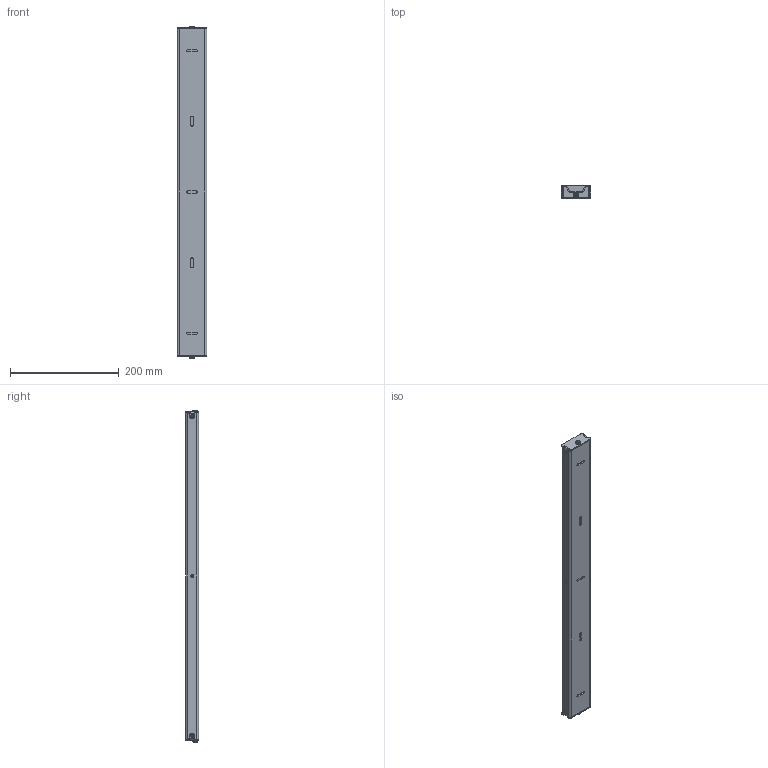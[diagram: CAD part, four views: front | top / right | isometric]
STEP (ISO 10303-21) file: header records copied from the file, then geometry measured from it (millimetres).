
FILE_DESCRIPTION (( 'STEP AP214' ), '1' );
FILE_NAME ('LAMP.SANILINEAR-01.STEP', '2020-06-27T10:04:23', ( '' ), ( '' ), 'SwSTEP 2.0', 'SolidWorks 2020', '' );
FILE_SCHEMA (( 'AUTOMOTIVE_DESIGN' ));
Length unit declared in the file: millimetre
Products named in the file (8): Connettore Jack; LAMP.SANILINEAR-01; Vite croce testa svasata M3x12_PreviewCfg; ZZ.SCAPADDS1104; DDS1104; MEC437.01.00 Anima; MEC437.02.00 Supporto; MEC437.03.00 Tappo
Assembly tree (14 placements, depth 2):
  LAMP.SANILINEAR-01
    MEC437.02.00 Supporto
    MEC437.01.00 Anima
    MEC437.03.00 Tappo  x2
    DDS1104
    Vite croce testa svasata M3x12_PreviewCfg  x6
    Connettore Jack  x2
    ZZ.SCAPADDS1104
Bounding box: 55 x 24.1 x 610.4 mm (x, y, z)
Volume: 247342.2 mm3; surface area: 287401.3 mm2
Topology: 409 solids, 409 shells, 3330 faces, 7113 edges, 4664 vertices
Faces by surface type: plane 2329, cylinder 917, bspline 56, cone 16, sphere 8, torus 4
Entity records: 93446 total; most frequent: CARTESIAN_POINT 18286, DIRECTION 14177, ORIENTED_EDGE 13142, EDGE_CURVE 6571, AXIS2_PLACEMENT_3D 4812, VECTOR 4553, LINE 4553, VERTEX_POINT 4335
